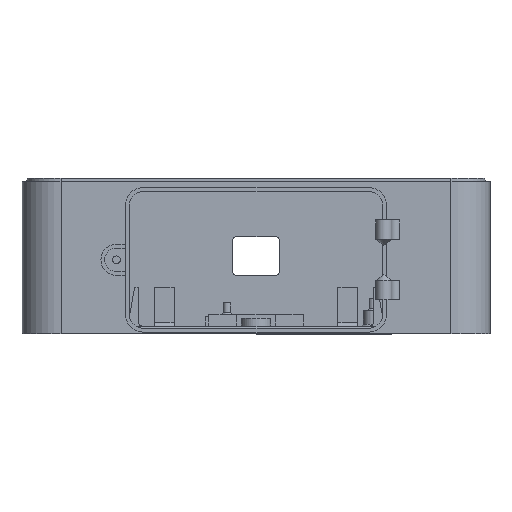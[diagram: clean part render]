
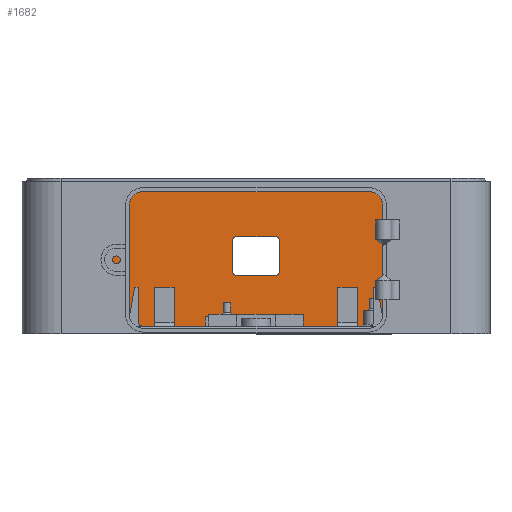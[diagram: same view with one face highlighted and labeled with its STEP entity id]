
A CAD part, front view. The second image highlights one B-rep face of the part: STEP entity #1682.
In plain terms, the highlighted planar face has unit normal (0, -1, 0).
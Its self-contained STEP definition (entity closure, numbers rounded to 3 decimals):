
#13 = CARTESIAN_POINT ( 'NONE',  ( 41., 68., 2. ) ) ;
#38 = CIRCLE ( 'NONE', #3253, 1. ) ;
#154 = DIRECTION ( 'NONE',  ( 0., 0., 1. ) ) ;
#188 = ORIENTED_EDGE ( 'NONE', *, *, #6461, .T. ) ;
#327 = VERTEX_POINT ( 'NONE', #5320 ) ;
#409 = AXIS2_PLACEMENT_3D ( 'NONE', #8772, #579, #5784 ) ;
#579 = DIRECTION ( 'NONE',  ( 0., 1., 0. ) ) ;
#666 = EDGE_CURVE ( 'NONE', #8502, #2862, #2377, .T. ) ;
#731 = VECTOR ( 'NONE', #5447, 1000. ) ;
#737 = CARTESIAN_POINT ( 'NONE',  ( -6., 68., 16. ) ) ;
#862 = CARTESIAN_POINT ( 'NONE',  ( 41., 68., 40. ) ) ;
#872 = DIRECTION ( 'NONE',  ( -1., 0., 0. ) ) ;
#934 = EDGE_CURVE ( 'NONE', #4126, #6614, #7646, .T. ) ;
#1488 = DIRECTION ( 'NONE',  ( 0., 1., 0. ) ) ;
#1630 = ORIENTED_EDGE ( 'NONE', *, *, #6400, .T. ) ;
#1682 = ADVANCED_FACE ( 'NONE', ( #6609, #5306 ), #8922, .F. ) ;
#1777 = LINE ( 'NONE', #5439, #6491 ) ;
#1978 = DIRECTION ( 'NONE',  ( -1., 0., 0. ) ) ;
#2057 = VECTOR ( 'NONE', #8187, 1000. ) ;
#2087 = CARTESIAN_POINT ( 'NONE',  ( -6., 68., 24. ) ) ;
#2208 = AXIS2_PLACEMENT_3D ( 'NONE', #5865, #1488, #2780 ) ;
#2312 = LINE ( 'NONE', #862, #2057 ) ;
#2377 = LINE ( 'NONE', #3186, #731 ) ;
#2542 = ORIENTED_EDGE ( 'NONE', *, *, #4447, .T. ) ;
#2739 = CARTESIAN_POINT ( 'NONE',  ( 6., 68., 16. ) ) ;
#2780 = DIRECTION ( 'NONE',  ( -1., 0., 0. ) ) ;
#2802 = CARTESIAN_POINT ( 'NONE',  ( 5., 68., 16. ) ) ;
#2862 = VERTEX_POINT ( 'NONE', #7196 ) ;
#2912 = VECTOR ( 'NONE', #4476, 1000. ) ;
#2953 = DIRECTION ( 'NONE',  ( 0., 0., -1. ) ) ;
#2963 = CIRCLE ( 'NONE', #8331, 1. ) ;
#3013 = LINE ( 'NONE', #3823, #9249 ) ;
#3046 = CARTESIAN_POINT ( 'NONE',  ( 6., 68., 40. ) ) ;
#3106 = DIRECTION ( 'NONE',  ( 1., 0., 0. ) ) ;
#3138 = VERTEX_POINT ( 'NONE', #5691 ) ;
#3156 = EDGE_CURVE ( 'NONE', #3138, #8502, #6748, .T. ) ;
#3186 = CARTESIAN_POINT ( 'NONE',  ( -60., 68., 40. ) ) ;
#3201 = VECTOR ( 'NONE', #2953, 1000. ) ;
#3217 = ORIENTED_EDGE ( 'NONE', *, *, #9153, .T. ) ;
#3233 = EDGE_CURVE ( 'NONE', #6614, #3423, #5307, .T. ) ;
#3253 = AXIS2_PLACEMENT_3D ( 'NONE', #8574, #9250, #1978 ) ;
#3423 = VERTEX_POINT ( 'NONE', #2739 ) ;
#3430 = VERTEX_POINT ( 'NONE', #8517 ) ;
#3579 = EDGE_CURVE ( 'NONE', #4226, #7110, #4526, .T. ) ;
#3793 = AXIS2_PLACEMENT_3D ( 'NONE', #8970, #6747, #872 ) ;
#3823 = CARTESIAN_POINT ( 'NONE',  ( -60., 68., 25. ) ) ;
#3849 = EDGE_LOOP ( 'NONE', ( #6826, #5768, #2542, #8707 ) ) ;
#4094 = ORIENTED_EDGE ( 'NONE', *, *, #6712, .T. ) ;
#4126 = VERTEX_POINT ( 'NONE', #6936 ) ;
#4192 = DIRECTION ( 'NONE',  ( -1., 0., 0. ) ) ;
#4226 = VERTEX_POINT ( 'NONE', #737 ) ;
#4447 = EDGE_CURVE ( 'NONE', #3138, #6549, #6073, .T. ) ;
#4476 = DIRECTION ( 'NONE',  ( 0., 0., 1. ) ) ;
#4494 = CARTESIAN_POINT ( 'NONE',  ( -60., 68., 2. ) ) ;
#4526 = LINE ( 'NONE', #8183, #2912 ) ;
#4668 = DIRECTION ( 'NONE',  ( -1., 0., 0. ) ) ;
#4801 = CIRCLE ( 'NONE', #2208, 1. ) ;
#5014 = DIRECTION ( 'NONE',  ( 0., 1., 0. ) ) ;
#5078 = VECTOR ( 'NONE', #5167, 1000. ) ;
#5130 = VERTEX_POINT ( 'NONE', #8412 ) ;
#5167 = DIRECTION ( 'NONE',  ( 1., 0., 0. ) ) ;
#5306 = FACE_OUTER_BOUND ( 'NONE', #3849, .T. ) ;
#5307 = LINE ( 'NONE', #3046, #3201 ) ;
#5320 = CARTESIAN_POINT ( 'NONE',  ( 5., 68., 15. ) ) ;
#5349 = ORIENTED_EDGE ( 'NONE', *, *, #3233, .T. ) ;
#5439 = CARTESIAN_POINT ( 'NONE',  ( -60., 68., 15. ) ) ;
#5447 = DIRECTION ( 'NONE',  ( 1., 0., 0. ) ) ;
#5691 = CARTESIAN_POINT ( 'NONE',  ( -41., 68., 2. ) ) ;
#5768 = ORIENTED_EDGE ( 'NONE', *, *, #3156, .F. ) ;
#5784 = DIRECTION ( 'NONE',  ( -1., 0., 0. ) ) ;
#5865 = CARTESIAN_POINT ( 'NONE',  ( -5., 68., 16. ) ) ;
#5919 = EDGE_LOOP ( 'NONE', ( #5349, #1630, #4094, #3217, #8914, #188, #7498, #5975 ) ) ;
#5975 = ORIENTED_EDGE ( 'NONE', *, *, #934, .T. ) ;
#6073 = LINE ( 'NONE', #4494, #5078 ) ;
#6400 = EDGE_CURVE ( 'NONE', #3423, #327, #2963, .T. ) ;
#6461 = EDGE_CURVE ( 'NONE', #7110, #3430, #38, .T. ) ;
#6491 = VECTOR ( 'NONE', #4668, 1000. ) ;
#6549 = VERTEX_POINT ( 'NONE', #13 ) ;
#6609 = FACE_BOUND ( 'NONE', #5919, .T. ) ;
#6614 = VERTEX_POINT ( 'NONE', #7323 ) ;
#6712 = EDGE_CURVE ( 'NONE', #327, #5130, #1777, .T. ) ;
#6747 = DIRECTION ( 'NONE',  ( 0., 1., 0. ) ) ;
#6748 = LINE ( 'NONE', #7426, #7815 ) ;
#6826 = ORIENTED_EDGE ( 'NONE', *, *, #666, .F. ) ;
#6936 = CARTESIAN_POINT ( 'NONE',  ( 5., 68., 25. ) ) ;
#7110 = VERTEX_POINT ( 'NONE', #2087 ) ;
#7196 = CARTESIAN_POINT ( 'NONE',  ( 41., 68., 40. ) ) ;
#7323 = CARTESIAN_POINT ( 'NONE',  ( 6., 68., 24. ) ) ;
#7426 = CARTESIAN_POINT ( 'NONE',  ( -41., 68., 40. ) ) ;
#7498 = ORIENTED_EDGE ( 'NONE', *, *, #7989, .T. ) ;
#7646 = CIRCLE ( 'NONE', #409, 1. ) ;
#7815 = VECTOR ( 'NONE', #154, 1000. ) ;
#7989 = EDGE_CURVE ( 'NONE', #3430, #4126, #3013, .T. ) ;
#8183 = CARTESIAN_POINT ( 'NONE',  ( -6., 68., 40. ) ) ;
#8187 = DIRECTION ( 'NONE',  ( 0., 0., -1. ) ) ;
#8331 = AXIS2_PLACEMENT_3D ( 'NONE', #2802, #5014, #4192 ) ;
#8412 = CARTESIAN_POINT ( 'NONE',  ( -5., 68., 15. ) ) ;
#8502 = VERTEX_POINT ( 'NONE', #9148 ) ;
#8517 = CARTESIAN_POINT ( 'NONE',  ( -5., 68., 25. ) ) ;
#8574 = CARTESIAN_POINT ( 'NONE',  ( -5., 68., 24. ) ) ;
#8707 = ORIENTED_EDGE ( 'NONE', *, *, #8886, .F. ) ;
#8772 = CARTESIAN_POINT ( 'NONE',  ( 5., 68., 24. ) ) ;
#8886 = EDGE_CURVE ( 'NONE', #2862, #6549, #2312, .T. ) ;
#8914 = ORIENTED_EDGE ( 'NONE', *, *, #3579, .T. ) ;
#8922 = PLANE ( 'NONE',  #3793 ) ;
#8970 = CARTESIAN_POINT ( 'NONE',  ( -60., 68., 40. ) ) ;
#9148 = CARTESIAN_POINT ( 'NONE',  ( -41., 68., 40. ) ) ;
#9153 = EDGE_CURVE ( 'NONE', #5130, #4226, #4801, .T. ) ;
#9249 = VECTOR ( 'NONE', #3106, 1000. ) ;
#9250 = DIRECTION ( 'NONE',  ( 0., 1., 0. ) ) ;
